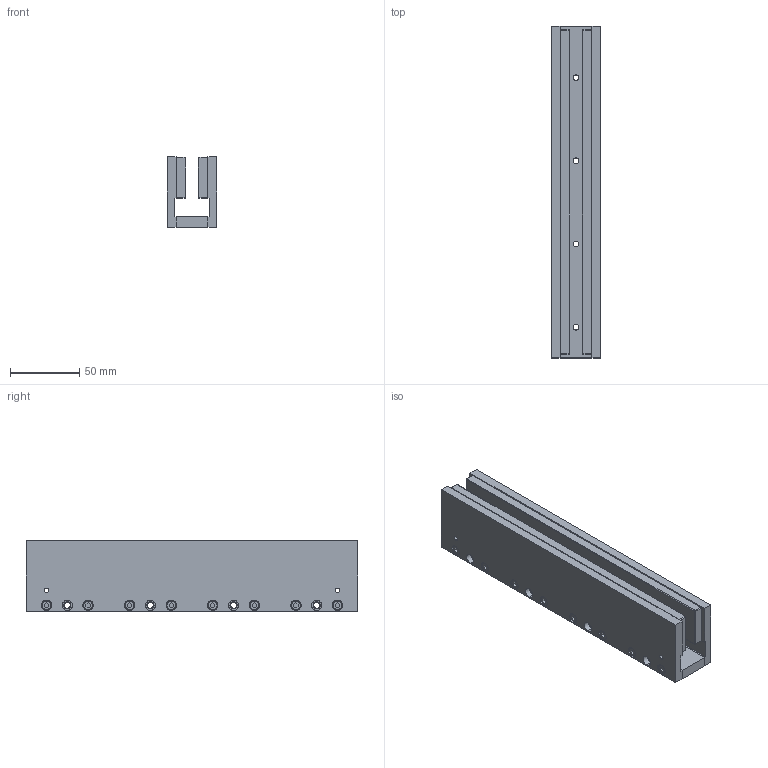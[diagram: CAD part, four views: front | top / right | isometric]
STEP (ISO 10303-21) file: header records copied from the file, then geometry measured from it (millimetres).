
FILE_DESCRIPTION (( 'STEP AP203' ), '1' );
FILE_NAME ('DX30F-TL240.step', '2021-01-04T10:14:03', ( '' ), ( '' ), 'SwSTEP 2.0', 'SolidWorks 2020', '' );
FILE_SCHEMA (( 'CONFIG_CONTROL_DESIGN' ));
Length unit declared in the file: millimetre
Products named in the file (1): DX30F-TL240
Bounding box: 35.7 x 239.5 x 50.8 mm (x, y, z)
Volume: 279933.2 mm3; surface area: 79754.2 mm2
Topology: 1 solids, 25 shells, 512 faces, 1116 edges, 704 vertices
Faces by surface type: plane 240, cylinder 224, torus 32, sphere 16
Entity records: 14093 total; most frequent: DIRECTION 2638, CARTESIAN_POINT 2317, ORIENTED_EDGE 2200, EDGE_CURVE 1100, AXIS2_PLACEMENT_3D 1025, VERTEX_POINT 704, EDGE_LOOP 634, LINE 588
